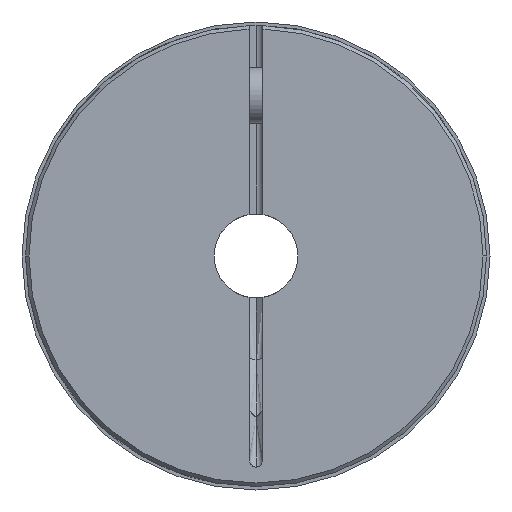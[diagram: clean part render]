
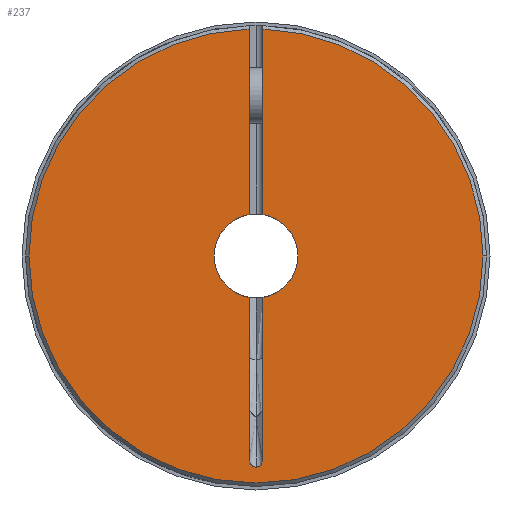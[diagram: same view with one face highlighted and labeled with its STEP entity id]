
A CAD part, left-side view. The second image highlights one B-rep face of the part: STEP entity #237.
In plain terms, the highlighted planar face has unit normal (-1, 0, 0).
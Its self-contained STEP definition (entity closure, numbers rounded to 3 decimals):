
#21 = AXIS2_PLACEMENT_3D ( 'NONE', #2891, #2042, #266 ) ;
#79 = CARTESIAN_POINT ( 'NONE',  ( 0., -1., 32.485 ) ) ;
#119 = CARTESIAN_POINT ( 'NONE',  ( 0., 1., 32.485 ) ) ;
#129 = ORIENTED_EDGE ( 'NONE', *, *, #2742, .T. ) ;
#144 = CARTESIAN_POINT ( 'NONE',  ( 0., -1., -5.916 ) ) ;
#192 = EDGE_CURVE ( 'NONE', #1660, #2987, #2805, .T. ) ;
#197 = CARTESIAN_POINT ( 'NONE',  ( 0., -0.308, -30.183 ) ) ;
#215 = ORIENTED_EDGE ( 'NONE', *, *, #297, .F. ) ;
#229 = CARTESIAN_POINT ( 'NONE',  ( 0., -1., -28.887 ) ) ;
#234 = DIRECTION ( 'NONE',  ( -1., 0., 0. ) ) ;
#237 = ADVANCED_FACE ( 'NONE', ( #2312 ), #3113, .T. ) ;
#240 = DIRECTION ( 'NONE',  ( 0., 0., -1. ) ) ;
#266 = DIRECTION ( 'NONE',  ( 0., -1., 0. ) ) ;
#297 = EDGE_CURVE ( 'NONE', #2874, #909, #2976, .T. ) ;
#349 = CARTESIAN_POINT ( 'NONE',  ( 0., 0.156, -30.233 ) ) ;
#363 = DIRECTION ( 'NONE',  ( 0., -1., 0. ) ) ;
#368 = VERTEX_POINT ( 'NONE', #2168 ) ;
#430 = CARTESIAN_POINT ( 'NONE',  ( 0., 0., 0. ) ) ;
#455 = DIRECTION ( 'NONE',  ( 0., 0., -1. ) ) ;
#461 = CARTESIAN_POINT ( 'NONE',  ( 0., 1., 0. ) ) ;
#515 = CIRCLE ( 'NONE', #21, 6. ) ;
#557 = ORIENTED_EDGE ( 'NONE', *, *, #1266, .F. ) ;
#564 = CARTESIAN_POINT ( 'NONE',  ( 0., 0., -30.233 ) ) ;
#591 = EDGE_CURVE ( 'NONE', #1964, #2026, #2089, .T. ) ;
#594 = LINE ( 'NONE', #1383, #2506 ) ;
#615 = CARTESIAN_POINT ( 'NONE',  ( 0., 32.5, 0. ) ) ;
#655 = DIRECTION ( 'NONE',  ( -1., 0., 0. ) ) ;
#711 = ORIENTED_EDGE ( 'NONE', *, *, #947, .T. ) ;
#842 = ORIENTED_EDGE ( 'NONE', *, *, #1431, .T. ) ;
#862 = EDGE_CURVE ( 'NONE', #2455, #2187, #2507, .T. ) ;
#909 = VERTEX_POINT ( 'NONE', #2858 ) ;
#942 = ORIENTED_EDGE ( 'NONE', *, *, #2717, .T. ) ;
#947 = EDGE_CURVE ( 'NONE', #2602, #2987, #2887, .T. ) ;
#973 = CARTESIAN_POINT ( 'NONE',  ( 0., -0.567, -30.014 ) ) ;
#1021 = ORIENTED_EDGE ( 'NONE', *, *, #192, .F. ) ;
#1041 = CARTESIAN_POINT ( 'NONE',  ( 0., 0., 0. ) ) ;
#1059 = DIRECTION ( 'NONE',  ( -1., 0., 0. ) ) ;
#1081 = AXIS2_PLACEMENT_3D ( 'NONE', #1323, #2889, #2075 ) ;
#1086 = CARTESIAN_POINT ( 'NONE',  ( 0., 0.562, -30.005 ) ) ;
#1104 = DIRECTION ( 'NONE',  ( 0., -1., 0. ) ) ;
#1129 = VERTEX_POINT ( 'NONE', #615 ) ;
#1144 = CARTESIAN_POINT ( 'NONE',  ( 0., 0.308, -30.183 ) ) ;
#1266 = EDGE_CURVE ( 'NONE', #2026, #368, #3339, .T. ) ;
#1299 = CIRCLE ( 'NONE', #1617, 32.5 ) ;
#1309 = EDGE_CURVE ( 'NONE', #2214, #2874, #594, .T. ) ;
#1321 = CARTESIAN_POINT ( 'NONE',  ( 0., 0.901, -29.495 ) ) ;
#1323 = CARTESIAN_POINT ( 'NONE',  ( 0., 0., 0. ) ) ;
#1327 = CARTESIAN_POINT ( 'NONE',  ( 0., 1., -28.887 ) ) ;
#1328 = ORIENTED_EDGE ( 'NONE', *, *, #1549, .T. ) ;
#1335 = CARTESIAN_POINT ( 'NONE',  ( 0., 0.502, -30.056 ) ) ;
#1382 = DIRECTION ( 'NONE',  ( 0., -1., 0. ) ) ;
#1383 = CARTESIAN_POINT ( 'NONE',  ( 0., 1., 0. ) ) ;
#1420 = CARTESIAN_POINT ( 'NONE',  ( 0., -1., 0. ) ) ;
#1431 = EDGE_CURVE ( 'NONE', #2214, #1129, #2230, .T. ) ;
#1468 = CARTESIAN_POINT ( 'NONE',  ( 0., -1., 0. ) ) ;
#1492 = AXIS2_PLACEMENT_3D ( 'NONE', #430, #2750, #3338 ) ;
#1506 = EDGE_CURVE ( 'NONE', #2400, #2602, #3322, .T. ) ;
#1532 = CARTESIAN_POINT ( 'NONE',  ( 0., -1., -28.887 ) ) ;
#1549 = EDGE_CURVE ( 'NONE', #1129, #2455, #1299, .T. ) ;
#1558 = ORIENTED_EDGE ( 'NONE', *, *, #1632, .F. ) ;
#1617 = AXIS2_PLACEMENT_3D ( 'NONE', #1041, #1059, #2942 ) ;
#1632 = EDGE_CURVE ( 'NONE', #909, #1660, #515, .T. ) ;
#1660 = VERTEX_POINT ( 'NONE', #3383 ) ;
#1672 = AXIS2_PLACEMENT_3D ( 'NONE', #2264, #655, #363 ) ;
#1725 = CARTESIAN_POINT ( 'NONE',  ( 0., -0.901, -29.494 ) ) ;
#1819 = AXIS2_PLACEMENT_3D ( 'NONE', #2981, #2679, #1382 ) ;
#1821 = ORIENTED_EDGE ( 'NONE', *, *, #1309, .F. ) ;
#1964 = VERTEX_POINT ( 'NONE', #144 ) ;
#2026 = VERTEX_POINT ( 'NONE', #3111 ) ;
#2042 = DIRECTION ( 'NONE',  ( -1., 0., 0. ) ) ;
#2075 = DIRECTION ( 'NONE',  ( 0., -1., 0. ) ) ;
#2083 = CARTESIAN_POINT ( 'NONE',  ( 0., 0., -30.233 ) ) ;
#2084 = VECTOR ( 'NONE', #240, 1000. ) ;
#2089 = CIRCLE ( 'NONE', #2865, 6. ) ;
#2168 = CARTESIAN_POINT ( 'NONE',  ( 0., -1., 5.916 ) ) ;
#2187 = VERTEX_POINT ( 'NONE', #79 ) ;
#2214 = VERTEX_POINT ( 'NONE', #119 ) ;
#2230 = CIRCLE ( 'NONE', #1081, 32.5 ) ;
#2241 = LINE ( 'NONE', #1468, #2539 ) ;
#2264 = CARTESIAN_POINT ( 'NONE',  ( 0., 0., 0. ) ) ;
#2289 = CARTESIAN_POINT ( 'NONE',  ( 0., -0.675, -29.897 ) ) ;
#2300 = CARTESIAN_POINT ( 'NONE',  ( 0., 1., 5.916 ) ) ;
#2312 = FACE_OUTER_BOUND ( 'NONE', #3234, .T. ) ;
#2365 = CARTESIAN_POINT ( 'NONE',  ( 0., 0.981, -29.196 ) ) ;
#2398 = DIRECTION ( 'NONE',  ( -1., 0., 0. ) ) ;
#2399 = DIRECTION ( 'NONE',  ( 0., 0., -1. ) ) ;
#2400 = VERTEX_POINT ( 'NONE', #1532 ) ;
#2417 = CARTESIAN_POINT ( 'NONE',  ( 0., 1., -28.887 ) ) ;
#2418 = ORIENTED_EDGE ( 'NONE', *, *, #862, .T. ) ;
#2446 = LINE ( 'NONE', #1420, #2766 ) ;
#2455 = VERTEX_POINT ( 'NONE', #3406 ) ;
#2462 = DIRECTION ( 'NONE',  ( 0., 0., -1. ) ) ;
#2506 = VECTOR ( 'NONE', #2399, 1000. ) ;
#2507 = CIRCLE ( 'NONE', #1672, 32.5 ) ;
#2528 = AXIS2_PLACEMENT_3D ( 'NONE', #2857, #2398, #1104 ) ;
#2537 = CARTESIAN_POINT ( 'NONE',  ( 0., -0.156, -30.233 ) ) ;
#2539 = VECTOR ( 'NONE', #455, 1000. ) ;
#2577 = CARTESIAN_POINT ( 'NONE',  ( 0., 0., 0. ) ) ;
#2602 = VERTEX_POINT ( 'NONE', #2623 ) ;
#2623 = CARTESIAN_POINT ( 'NONE',  ( 0., 0., -30.233 ) ) ;
#2663 = CARTESIAN_POINT ( 'NONE',  ( 0., 0.842, -29.637 ) ) ;
#2679 = DIRECTION ( 'NONE',  ( -1., 0., 0. ) ) ;
#2717 = EDGE_CURVE ( 'NONE', #1964, #2400, #2446, .T. ) ;
#2742 = EDGE_CURVE ( 'NONE', #2187, #368, #2241, .T. ) ;
#2750 = DIRECTION ( 'NONE',  ( -1., 0., 0. ) ) ;
#2766 = VECTOR ( 'NONE', #2462, 1000. ) ;
#2799 = CARTESIAN_POINT ( 'NONE',  ( 0., -0.981, -29.195 ) ) ;
#2805 = LINE ( 'NONE', #461, #2084 ) ;
#2814 = ORIENTED_EDGE ( 'NONE', *, *, #591, .F. ) ;
#2854 = DIRECTION ( 'NONE',  ( 0., -1., 0. ) ) ;
#2857 = CARTESIAN_POINT ( 'NONE',  ( 0., 0., 0. ) ) ;
#2858 = CARTESIAN_POINT ( 'NONE',  ( 0., 6., 0. ) ) ;
#2865 = AXIS2_PLACEMENT_3D ( 'NONE', #2577, #234, #2854 ) ;
#2874 = VERTEX_POINT ( 'NONE', #2300 ) ;
#2887 = B_SPLINE_CURVE_WITH_KNOTS ( 'NONE', 3,
 ( #564, #349, #1144, #1335, #1086, #2943, #3180, #2663, #1321, #2365, #2924, #2417 ),
 .UNSPECIFIED., .F., .F.,
 ( 4, 2, 2, 2, 2, 4 ),
 ( 0., 0., 0.001, 0.001, 0.001, 0.002 ),
 .UNSPECIFIED. ) ;
#2888 = ORIENTED_EDGE ( 'NONE', *, *, #1506, .T. ) ;
#2889 = DIRECTION ( 'NONE',  ( -1., 0., 0. ) ) ;
#2891 = CARTESIAN_POINT ( 'NONE',  ( 0., 0., 0. ) ) ;
#2924 = CARTESIAN_POINT ( 'NONE',  ( 0., 1., -29.042 ) ) ;
#2942 = DIRECTION ( 'NONE',  ( 0., -1., 0. ) ) ;
#2943 = CARTESIAN_POINT ( 'NONE',  ( 0., 0.668, -29.894 ) ) ;
#2976 = CIRCLE ( 'NONE', #1492, 6. ) ;
#2981 = CARTESIAN_POINT ( 'NONE',  ( 0., 0., 0. ) ) ;
#2987 = VERTEX_POINT ( 'NONE', #1327 ) ;
#3034 = CARTESIAN_POINT ( 'NONE',  ( 0., -0.842, -29.637 ) ) ;
#3055 = CARTESIAN_POINT ( 'NONE',  ( 0., -1., -29.042 ) ) ;
#3111 = CARTESIAN_POINT ( 'NONE',  ( 0., -6., 0. ) ) ;
#3113 = PLANE ( 'NONE',  #2528 ) ;
#3180 = CARTESIAN_POINT ( 'NONE',  ( 0., 0.716, -29.833 ) ) ;
#3234 = EDGE_LOOP ( 'NONE', ( #1821, #842, #1328, #2418, #129, #557, #2814, #942, #2888, #711, #1021, #1558, #215 ) ) ;
#3322 = B_SPLINE_CURVE_WITH_KNOTS ( 'NONE', 3,
 ( #229, #3055, #2799, #1725, #3034, #2289, #973, #197, #2537, #2083 ),
 .UNSPECIFIED., .F., .F.,
 ( 4, 2, 2, 2, 4 ),
 ( 0., 0., 0.001, 0.001, 0.002 ),
 .UNSPECIFIED. ) ;
#3338 = DIRECTION ( 'NONE',  ( 0., -1., 0. ) ) ;
#3339 = CIRCLE ( 'NONE', #1819, 6. ) ;
#3383 = CARTESIAN_POINT ( 'NONE',  ( 0., 1., -5.916 ) ) ;
#3406 = CARTESIAN_POINT ( 'NONE',  ( 0., -32.5, 0. ) ) ;
